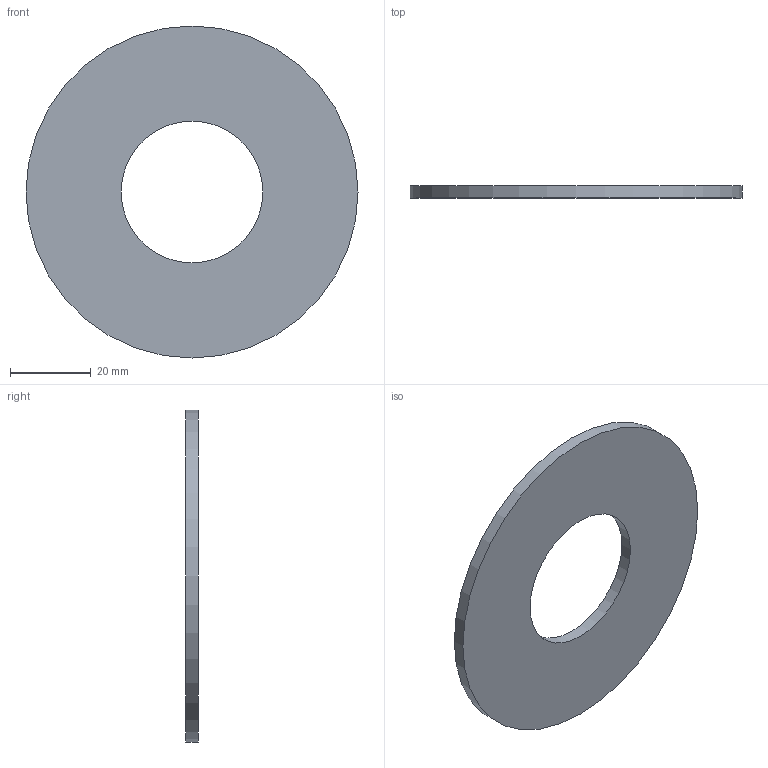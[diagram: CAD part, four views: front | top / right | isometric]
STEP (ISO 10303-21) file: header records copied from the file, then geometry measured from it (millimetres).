
FILE_DESCRIPTION(/* description */ ('Unknown'),/* implementation_level */ '2;1');
FILE_NAME(/* name */ 'GUA.040C',/* time_stamp */ '2021-04-01T10:45:48+02:00',/* author */ ('Unknown'),/* organization */ ('Unknown'),/* preprocessor_version */ 'ST-DEVELOPER v16.7',/* originating_system */ 'Solid Edge',/* authorisation */ 'Unknown');
FILE_SCHEMA (('AUTOMOTIVE_DESIGN {1 0 10303 214 3 1 1}'));
Length unit declared in the file: millimetre
Products named in the file (1): GUA.040C
Bounding box: 82 x 3 x 82 mm (x, y, z)
Volume: 12956.7 mm3; surface area: 9740.5 mm2
Topology: 1 solids, 1 shells, 4 faces, 6 edges, 4 vertices
Faces by surface type: cylinder 2, plane 2
Full cylindrical faces by diameter (mm): 35 x1, 82 x1
Entity records: 118 total; most frequent: DIRECTION 18, CARTESIAN_POINT 13, AXIS2_PLACEMENT_3D 9, ORIENTED_EDGE 8, EDGE_LOOP 8, FACE_BOUND 8, EDGE_CURVE 4, VERTEX_POINT 4
